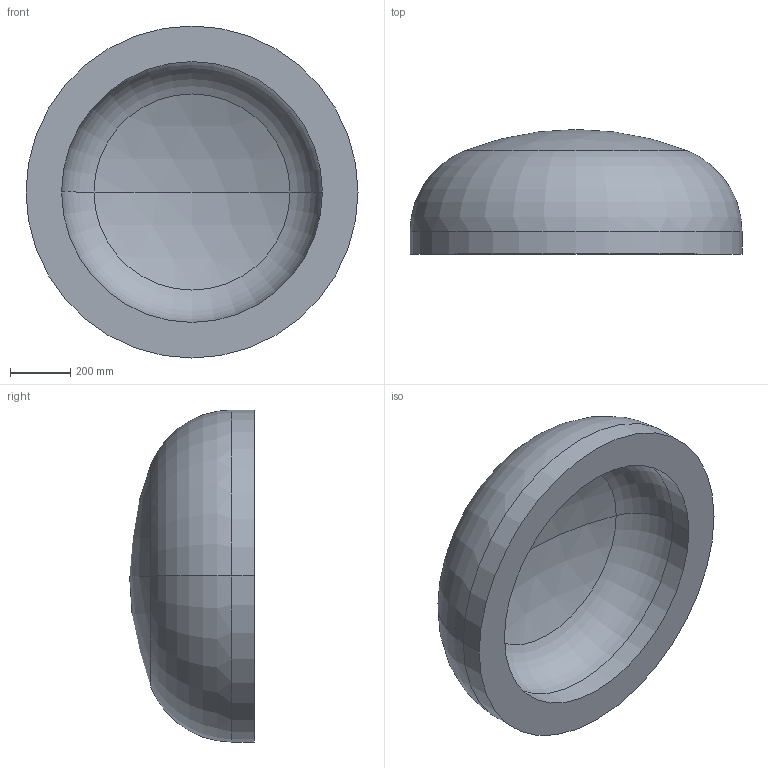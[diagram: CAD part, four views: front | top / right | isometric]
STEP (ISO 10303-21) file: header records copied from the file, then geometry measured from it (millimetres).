
FILE_DESCRIPTION (( 'STEP AP203' ), '1' );
FILE_NAME ('DIN 28013 Korbbogenform_-_Boden DIN 28013 - 1100 x 75 - I - s=118.step', '2016-07-01T09:18:19', ( '' ), ( '' ), 'SwSTEP 2.0', 'SolidWorks 2013', '' );
FILE_SCHEMA (( 'CONFIG_CONTROL_DESIGN' ));
Length unit declared in the file: millimetre
Products named in the file (1): DIN 28013 Korbbogenform_-_Boden DIN 28013 - 1100 x 75 - I - s=118
Bounding box: 1100 x 413.11 x 1100 mm (x, y, z)
Volume: 163498688.3 mm3; surface area: 3164361.3 mm2
Topology: 1 solids, 1 shells, 13 faces, 24 edges, 14 vertices
Faces by surface type: torus 4, cylinder 4, sphere 4, plane 1
Entity records: 407 total; most frequent: DIRECTION 72, CARTESIAN_POINT 52, ORIENTED_EDGE 48, AXIS2_PLACEMENT_3D 34, EDGE_CURVE 24, CIRCLE 20, VERTEX_POINT 14, EDGE_LOOP 14
